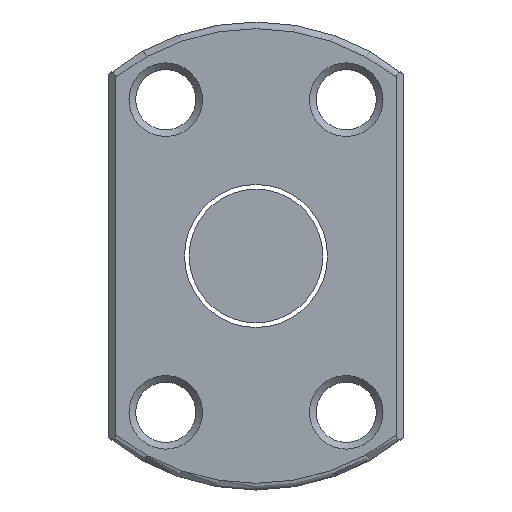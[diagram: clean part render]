
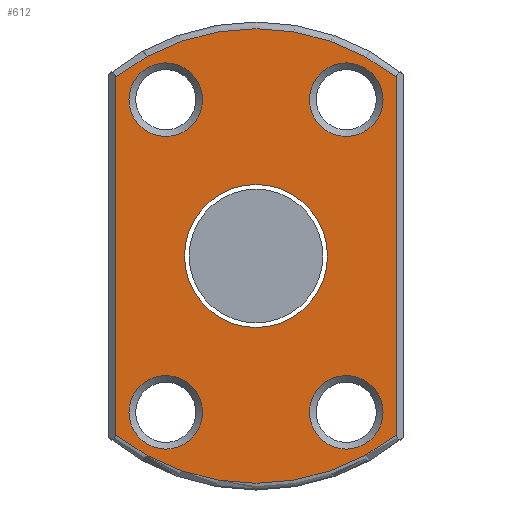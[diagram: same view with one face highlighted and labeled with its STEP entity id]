
A CAD part, left-side view. The second image highlights one B-rep face of the part: STEP entity #612.
In plain terms, the highlighted planar face has unit normal (-1, 0, 0).
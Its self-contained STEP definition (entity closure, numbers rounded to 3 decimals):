
#16 = VERTEX_POINT ( 'NONE', #154 ) ;
#19 = DIRECTION ( 'NONE',  ( -1., 0., 0. ) ) ;
#32 = LINE ( 'NONE', #887, #163 ) ;
#49 = EDGE_CURVE ( 'NONE', #275, #492, #508, .T. ) ;
#56 = VECTOR ( 'NONE', #672, 1000. ) ;
#106 = AXIS2_PLACEMENT_3D ( 'NONE', #919, #768, #839 ) ;
#135 = EDGE_CURVE ( 'NONE', #231, #231, #452, .T. ) ;
#137 = DIRECTION ( 'NONE',  ( 0., -1., 0. ) ) ;
#140 = CARTESIAN_POINT ( 'NONE',  ( -28., 6.75, -11.691 ) ) ;
#143 = DIRECTION ( 'NONE',  ( 1., 0., 0. ) ) ;
#154 = CARTESIAN_POINT ( 'NONE',  ( -28., 5.35, 0. ) ) ;
#157 = AXIS2_PLACEMENT_3D ( 'NONE', #852, #854, #723 ) ;
#158 = EDGE_LOOP ( 'NONE', ( #294 ) ) ;
#159 = VERTEX_POINT ( 'NONE', #663 ) ;
#162 = EDGE_LOOP ( 'NONE', ( #662 ) ) ;
#163 = VECTOR ( 'NONE', #349, 1000. ) ;
#166 = FACE_BOUND ( 'NONE', #366, .T. ) ;
#173 = VERTEX_POINT ( 'NONE', #683 ) ;
#181 = ORIENTED_EDGE ( 'NONE', *, *, #264, .T. ) ;
#203 = DIRECTION ( 'NONE',  ( -1., 0., 0. ) ) ;
#209 = CARTESIAN_POINT ( 'NONE',  ( -28., 10.5, -13.37 ) ) ;
#231 = VERTEX_POINT ( 'NONE', #568 ) ;
#241 = CARTESIAN_POINT ( 'NONE',  ( -28., 4., -11.691 ) ) ;
#246 = CIRCLE ( 'NONE', #157, 2.75 ) ;
#258 = CIRCLE ( 'NONE', #636, 2.75 ) ;
#264 = EDGE_CURVE ( 'NONE', #877, #877, #890, .T. ) ;
#265 = EDGE_CURVE ( 'NONE', #173, #275, #32, .T. ) ;
#273 = CARTESIAN_POINT ( 'NONE',  ( -28., 0., 0. ) ) ;
#275 = VERTEX_POINT ( 'NONE', #559 ) ;
#281 = ORIENTED_EDGE ( 'NONE', *, *, #895, .T. ) ;
#282 = DIRECTION ( 'NONE',  ( 0., -1., 0. ) ) ;
#288 = DIRECTION ( 'NONE',  ( 0., 1., 0. ) ) ;
#294 = ORIENTED_EDGE ( 'NONE', *, *, #778, .T. ) ;
#297 = DIRECTION ( 'NONE',  ( 0., -1., 0. ) ) ;
#306 = FACE_OUTER_BOUND ( 'NONE', #572, .T. ) ;
#317 = ORIENTED_EDGE ( 'NONE', *, *, #135, .T. ) ;
#342 = EDGE_LOOP ( 'NONE', ( #355 ) ) ;
#349 = DIRECTION ( 'NONE',  ( 0., 0., 1. ) ) ;
#355 = ORIENTED_EDGE ( 'NONE', *, *, #423, .T. ) ;
#364 = VERTEX_POINT ( 'NONE', #241 ) ;
#366 = EDGE_LOOP ( 'NONE', ( #181 ) ) ;
#379 = CARTESIAN_POINT ( 'NONE',  ( -28., 10.5, 0. ) ) ;
#394 = DIRECTION ( 'NONE',  ( 0., -1., 0. ) ) ;
#423 = EDGE_CURVE ( 'NONE', #16, #16, #823, .T. ) ;
#435 = FACE_BOUND ( 'NONE', #158, .T. ) ;
#443 = ORIENTED_EDGE ( 'NONE', *, *, #740, .T. ) ;
#447 = AXIS2_PLACEMENT_3D ( 'NONE', #912, #203, #282 ) ;
#452 = CIRCLE ( 'NONE', #721, 2.75 ) ;
#456 = CARTESIAN_POINT ( 'NONE',  ( -28., -6.75, -11.691 ) ) ;
#492 = VERTEX_POINT ( 'NONE', #649 ) ;
#501 = CIRCLE ( 'NONE', #447, 17. ) ;
#505 = ORIENTED_EDGE ( 'NONE', *, *, #49, .T. ) ;
#508 = CIRCLE ( 'NONE', #106, 17. ) ;
#559 = CARTESIAN_POINT ( 'NONE',  ( -28., -10.5, 13.37 ) ) ;
#568 = CARTESIAN_POINT ( 'NONE',  ( -28., 4., 11.691 ) ) ;
#571 = AXIS2_PLACEMENT_3D ( 'NONE', #873, #19, #297 ) ;
#572 = EDGE_LOOP ( 'NONE', ( #281, #443, #668, #505 ) ) ;
#612 = ADVANCED_FACE ( 'NONE', ( #166, #435, #667, #812, #656, #306 ), #931, .T. ) ;
#628 = DIRECTION ( 'NONE',  ( 1., 0., 0. ) ) ;
#636 = AXIS2_PLACEMENT_3D ( 'NONE', #140, #909, #137 ) ;
#649 = CARTESIAN_POINT ( 'NONE',  ( -28., 10.5, 13.37 ) ) ;
#656 = FACE_BOUND ( 'NONE', #342, .T. ) ;
#660 = AXIS2_PLACEMENT_3D ( 'NONE', #273, #143, #288 ) ;
#662 = ORIENTED_EDGE ( 'NONE', *, *, #788, .T. ) ;
#663 = CARTESIAN_POINT ( 'NONE',  ( -28., -9.5, 11.691 ) ) ;
#667 = FACE_BOUND ( 'NONE', #806, .T. ) ;
#668 = ORIENTED_EDGE ( 'NONE', *, *, #265, .T. ) ;
#672 = DIRECTION ( 'NONE',  ( 0., 0., -1. ) ) ;
#676 = AXIS2_PLACEMENT_3D ( 'NONE', #456, #834, #394 ) ;
#683 = CARTESIAN_POINT ( 'NONE',  ( -28., -10.5, -13.37 ) ) ;
#721 = AXIS2_PLACEMENT_3D ( 'NONE', #903, #628, #758 ) ;
#723 = DIRECTION ( 'NONE',  ( 0., -1., 0. ) ) ;
#740 = EDGE_CURVE ( 'NONE', #819, #173, #501, .T. ) ;
#744 = CARTESIAN_POINT ( 'NONE',  ( -28., -9.5, -11.691 ) ) ;
#758 = DIRECTION ( 'NONE',  ( 0., -1., 0. ) ) ;
#768 = DIRECTION ( 'NONE',  ( -1., 0., 0. ) ) ;
#778 = EDGE_CURVE ( 'NONE', #159, #159, #246, .T. ) ;
#788 = EDGE_CURVE ( 'NONE', #364, #364, #258, .T. ) ;
#806 = EDGE_LOOP ( 'NONE', ( #317 ) ) ;
#812 = FACE_BOUND ( 'NONE', #162, .T. ) ;
#819 = VERTEX_POINT ( 'NONE', #209 ) ;
#823 = CIRCLE ( 'NONE', #660, 5.35 ) ;
#834 = DIRECTION ( 'NONE',  ( 1., 0., 0. ) ) ;
#839 = DIRECTION ( 'NONE',  ( 0., -1., 0. ) ) ;
#852 = CARTESIAN_POINT ( 'NONE',  ( -28., -6.75, 11.691 ) ) ;
#854 = DIRECTION ( 'NONE',  ( 1., 0., 0. ) ) ;
#873 = CARTESIAN_POINT ( 'NONE',  ( -28., 17.5, 0. ) ) ;
#877 = VERTEX_POINT ( 'NONE', #744 ) ;
#887 = CARTESIAN_POINT ( 'NONE',  ( -28., -10.5, 0. ) ) ;
#890 = CIRCLE ( 'NONE', #676, 2.75 ) ;
#895 = EDGE_CURVE ( 'NONE', #492, #819, #930, .T. ) ;
#903 = CARTESIAN_POINT ( 'NONE',  ( -28., 6.75, 11.691 ) ) ;
#909 = DIRECTION ( 'NONE',  ( 1., 0., 0. ) ) ;
#912 = CARTESIAN_POINT ( 'NONE',  ( -28., 0., 0. ) ) ;
#919 = CARTESIAN_POINT ( 'NONE',  ( -28., 0., 0. ) ) ;
#930 = LINE ( 'NONE', #379, #56 ) ;
#931 = PLANE ( 'NONE',  #571 ) ;
